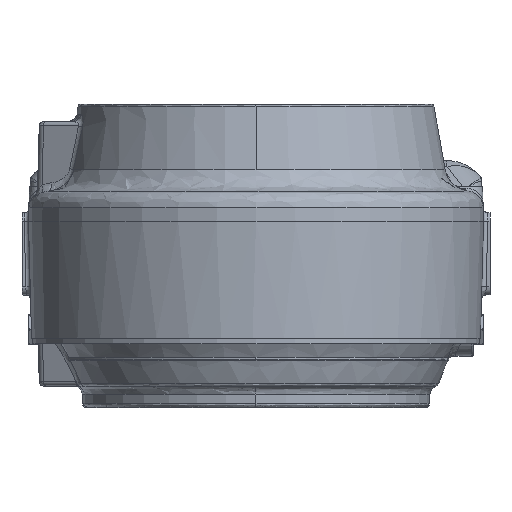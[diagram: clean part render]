
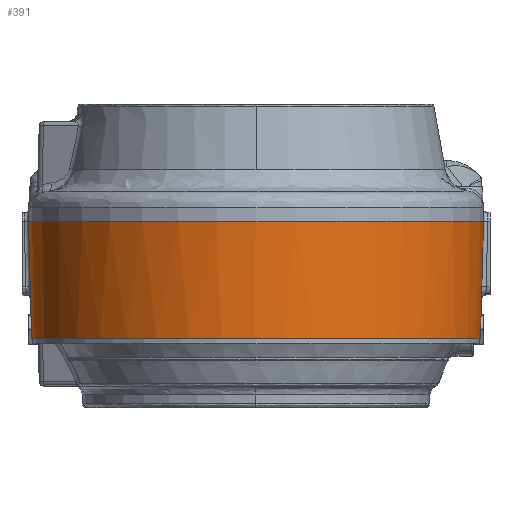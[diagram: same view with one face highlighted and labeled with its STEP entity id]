
A CAD part, left-side view. The second image highlights one B-rep face of the part: STEP entity #391.
In plain terms, the highlighted face is a revolution surface.
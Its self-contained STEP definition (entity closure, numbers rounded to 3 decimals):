
#148=CARTESIAN_POINT('Vertex',(-225.,-51.793,-643.)) ;
#152=CARTESIAN_POINT('Control Point',(-225.,51.793,-643.)) ;
#153=CARTESIAN_POINT('Control Point',(-229.807,51.793,-643.)) ;
#154=CARTESIAN_POINT('Control Point',(-234.678,51.235,-643.)) ;
#155=CARTESIAN_POINT('Control Point',(-239.52,50.09,-643.)) ;
#156=CARTESIAN_POINT('Control Point',(-248.776,46.675,-643.)) ;
#157=CARTESIAN_POINT('Control Point',(-257.106,41.088,-643.)) ;
#158=CARTESIAN_POINT('Control Point',(-260.883,37.843,-643.)) ;
#159=CARTESIAN_POINT('Control Point',(-267.332,30.785,-643.)) ;
#160=CARTESIAN_POINT('Control Point',(-272.044,22.384,-643.)) ;
#161=CARTESIAN_POINT('Control Point',(-273.845,18.127,-643.)) ;
#162=CARTESIAN_POINT('Control Point',(-276.471,9.283,-643.)) ;
#163=CARTESIAN_POINT('Control Point',(-277.099,0.058,-643.)) ;
#164=CARTESIAN_POINT('Control Point',(-276.899,-4.562,-643.)) ;
#165=CARTESIAN_POINT('Control Point',(-275.419,-14.058,-643.)) ;
#166=CARTESIAN_POINT('Control Point',(-271.83,-22.947,-643.)) ;
#167=CARTESIAN_POINT('Control Point',(-269.422,-27.311,-643.)) ;
#168=CARTESIAN_POINT('Control Point',(-263.581,-35.432,-643.)) ;
#169=CARTESIAN_POINT('Control Point',(-256.072,-41.884,-643.)) ;
#170=CARTESIAN_POINT('Control Point',(-251.932,-44.65,-643.)) ;
#171=CARTESIAN_POINT('Control Point',(-244.156,-48.602,-643.)) ;
#172=CARTESIAN_POINT('Control Point',(-235.899,-50.837,-643.)) ;
#173=CARTESIAN_POINT('Control Point',(-232.256,-51.478,-643.)) ;
#174=CARTESIAN_POINT('Control Point',(-228.61,-51.793,-643.)) ;
#175=CARTESIAN_POINT('Control Point',(-225.,-51.793,-643.)) ;
#176=CARTESIAN_POINT('Vertex',(-225.,51.793,-643.)) ;
#337=CARTESIAN_POINT('Line Origine',(-225.,52.146,-629.5)) ;
#341=CARTESIAN_POINT('Vertex',(-225.,52.5,-616.)) ;
#367=CARTESIAN_POINT('Control Point',(-225.,51.793,-643.)) ;
#368=CARTESIAN_POINT('Control Point',(-225.,52.5,-616.)) ;
#369=CARTESIAN_POINT('Axis1P Location',(-225.,0.,-616.)) ;
#373=CARTESIAN_POINT('Line Origine',(-225.,-52.146,-629.5)) ;
#377=CARTESIAN_POINT('Vertex',(-225.,-52.5,-616.)) ;
#380=CARTESIAN_POINT('Axis2P3D Location',(-225.,0.,-616.)) ;
#338=DIRECTION('Vector Direction',(0.,0.026,1.)) ;
#370=DIRECTION('Axis1P Direction',(0.,0.,1.)) ;
#374=DIRECTION('Vector Direction',(0.,-0.026,1.)) ;
#381=DIRECTION('Axis2P3D Direction',(0.,0.,1.)) ;
#382=AXIS2_PLACEMENT_3D('Circle Axis2P3D',#380,#381,$) ;
#386=ORIENTED_EDGE('',*,*,#379,.T.) ;
#387=ORIENTED_EDGE('',*,*,#384,.F.) ;
#388=ORIENTED_EDGE('',*,*,#343,.F.) ;
#389=ORIENTED_EDGE('',*,*,#178,.T.) ;
#339=VECTOR('Line Direction',#338,1.) ;
#375=VECTOR('Line Direction',#374,1.) ;
#391=ADVANCED_FACE('E__A I_____',(#390),#372,.T.) ;
#371=AXIS1_PLACEMENT('Revolution Surface Axis1P',#369,#370) ;
#151=B_SPLINE_CURVE_WITH_KNOTS('',5,(#152,#153,#154,#155,#156,#157,#158,#159,#160,#161,#162,#163,#164,#165,#166,#167,#168,#169,#170,#171,#172,#173,#174,#175),.UNSPECIFIED.,.F.,.U.,(6,3,3,3,3,3,3,6),(0.,35.922,70.663,102.382,133.97,168.22,203.199,230.176),.UNSPECIFIED.) ;
#366=B_SPLINE_CURVE_WITH_KNOTS('',1,(#367,#368),.UNSPECIFIED.,.F.,.U.,(2,2),(-13.505,13.505),.UNSPECIFIED.) ;
#383=CIRCLE('generated circle',#382,52.5) ;
#178=EDGE_CURVE('',#177,#149,#151,.T.) ;
#343=EDGE_CURVE('',#177,#342,#340,.T.) ;
#379=EDGE_CURVE('',#149,#378,#376,.T.) ;
#384=EDGE_CURVE('',#342,#378,#383,.T.) ;
#385=EDGE_LOOP('',(#386,#387,#388,#389)) ;
#390=FACE_OUTER_BOUND('',#385,.T.) ;
#340=LINE('Line',#337,#339) ;
#376=LINE('Line',#373,#375) ;
#372=SURFACE_OF_REVOLUTION('Surface of Revolution',#366,#371) ;
#149=VERTEX_POINT('',#148) ;
#177=VERTEX_POINT('',#176) ;
#342=VERTEX_POINT('',#341) ;
#378=VERTEX_POINT('',#377) ;
